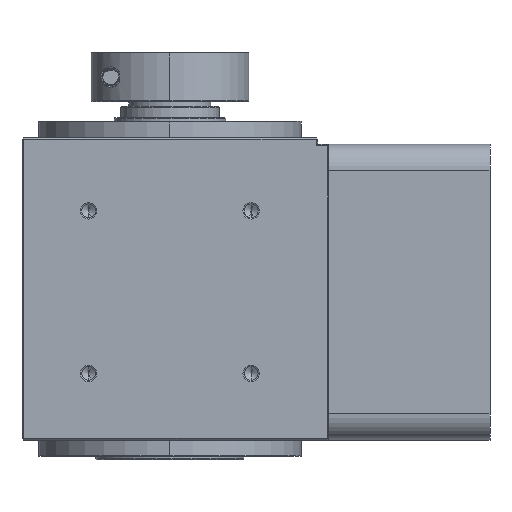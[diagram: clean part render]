
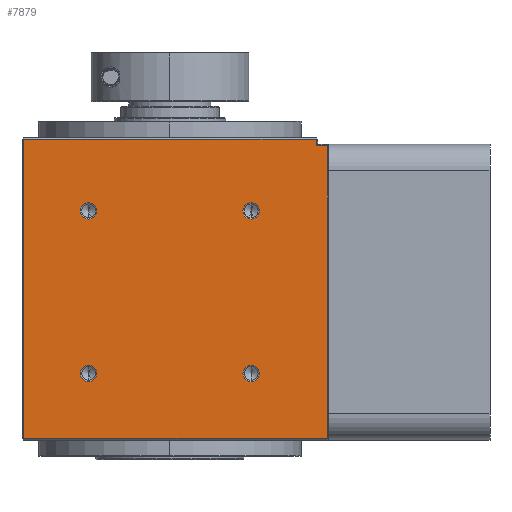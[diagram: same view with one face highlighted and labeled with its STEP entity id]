
A CAD part, left-side view. The second image highlights one B-rep face of the part: STEP entity #7879.
In plain terms, the highlighted planar face has unit normal (-1, 0, 0) as drawn and (1, 0, 0) by its records, which use the part's own axes.
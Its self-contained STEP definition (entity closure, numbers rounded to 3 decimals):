
#371 = ORIENTED_EDGE ( 'NONE', *, *, #33086, .T. ) ;
#588 = CIRCLE ( 'NONE', #5230, 2.5 ) ;
#821 = VECTOR ( 'NONE', #15016, 1000. ) ;
#1117 = ORIENTED_EDGE ( 'NONE', *, *, #29565, .F. ) ;
#1132 = CARTESIAN_POINT ( 'NONE',  ( 45., 44.5, 96.5 ) ) ;
#1711 = EDGE_CURVE ( 'NONE', #19508, #4887, #34512, .T. ) ;
#1725 = VECTOR ( 'NONE', #14639, 1000. ) ;
#2147 = EDGE_LOOP ( 'NONE', ( #27961, #19349 ) ) ;
#2289 = VECTOR ( 'NONE', #34239, 1000. ) ;
#2417 = CIRCLE ( 'NONE', #24730, 2.5 ) ;
#2738 = EDGE_CURVE ( 'NONE', #4467, #16586, #5105, .T. ) ;
#3042 = LINE ( 'NONE', #28829, #1725 ) ;
#3567 = CARTESIAN_POINT ( 'NONE',  ( 45., 44.5, 102. ) ) ;
#3647 = LINE ( 'NONE', #5782, #17879 ) ;
#4395 = LINE ( 'NONE', #3567, #821 ) ;
#4467 = VERTEX_POINT ( 'NONE', #36302 ) ;
#4887 = VERTEX_POINT ( 'NONE', #27420 ) ;
#4929 = DIRECTION ( 'NONE',  ( 0., 0., -1. ) ) ;
#5101 = ORIENTED_EDGE ( 'NONE', *, *, #33422, .F. ) ;
#5105 = CIRCLE ( 'NONE', #18996, 2.5 ) ;
#5163 = VERTEX_POINT ( 'NONE', #5373 ) ;
#5209 = EDGE_LOOP ( 'NONE', ( #1117, #23049 ) ) ;
#5230 = AXIS2_PLACEMENT_3D ( 'NONE', #25127, #13665, #4929 ) ;
#5318 = ORIENTED_EDGE ( 'NONE', *, *, #31998, .F. ) ;
#5373 = CARTESIAN_POINT ( 'NONE',  ( 45., -47.93, 7.5 ) ) ;
#5630 = VERTEX_POINT ( 'NONE', #1132 ) ;
#5782 = CARTESIAN_POINT ( 'NONE',  ( 45., 45., 5.5 ) ) ;
#5871 = CARTESIAN_POINT ( 'NONE',  ( 45., 24.749, 79.249 ) ) ;
#6072 = EDGE_CURVE ( 'NONE', #5630, #13372, #20558, .T. ) ;
#6322 = AXIS2_PLACEMENT_3D ( 'NONE', #23310, #14458, #11609 ) ;
#6951 = DIRECTION ( 'NONE',  ( -1., 0., 0. ) ) ;
#7098 = DIRECTION ( 'NONE',  ( 0., 0., -1. ) ) ;
#7121 = DIRECTION ( 'NONE',  ( 1., 0., 0. ) ) ;
#7122 = CARTESIAN_POINT ( 'NONE',  ( 45., 24.749, 29.751 ) ) ;
#7332 = CARTESIAN_POINT ( 'NONE',  ( 45., -45., 102. ) ) ;
#7757 = DIRECTION ( 'NONE',  ( 0., 0., -1. ) ) ;
#7834 = DIRECTION ( 'NONE',  ( 1., 0., 0. ) ) ;
#7879 = ADVANCED_FACE ( 'NONE', ( #26945, #30963, #36675, #16214, #29560 ), #35703, .F. ) ;
#8486 = EDGE_CURVE ( 'NONE', #16080, #5630, #4395, .T. ) ;
#9029 = VECTOR ( 'NONE', #7098, 1000. ) ;
#9755 = ORIENTED_EDGE ( 'NONE', *, *, #16342, .T. ) ;
#10151 = CARTESIAN_POINT ( 'NONE',  ( 45., -47.93, 96.5 ) ) ;
#10774 = VERTEX_POINT ( 'NONE', #22403 ) ;
#11271 = DIRECTION ( 'NONE',  ( 1., 0., 0. ) ) ;
#11609 = DIRECTION ( 'NONE',  ( 0., 0., -1. ) ) ;
#12590 = AXIS2_PLACEMENT_3D ( 'NONE', #33589, #16537, #16401 ) ;
#13372 = VERTEX_POINT ( 'NONE', #10151 ) ;
#13421 = AXIS2_PLACEMENT_3D ( 'NONE', #19567, #7834, #36580 ) ;
#13629 = VERTEX_POINT ( 'NONE', #25230 ) ;
#13665 = DIRECTION ( 'NONE',  ( 1., 0., 0. ) ) ;
#14059 = CIRCLE ( 'NONE', #12590, 2.5 ) ;
#14149 = DIRECTION ( 'NONE',  ( 0., 0., -1. ) ) ;
#14270 = EDGE_CURVE ( 'NONE', #22569, #10774, #2417, .T. ) ;
#14365 = CIRCLE ( 'NONE', #26517, 2.5 ) ;
#14458 = DIRECTION ( 'NONE',  ( 1., 0., 0. ) ) ;
#14639 = DIRECTION ( 'NONE',  ( 0., 0., -1. ) ) ;
#15016 = DIRECTION ( 'NONE',  ( 0., 0., 1. ) ) ;
#15178 = CARTESIAN_POINT ( 'NONE',  ( 45., -44.5, 102. ) ) ;
#15732 = EDGE_CURVE ( 'NONE', #27521, #22777, #31758, .T. ) ;
#16080 = VERTEX_POINT ( 'NONE', #22430 ) ;
#16082 = CIRCLE ( 'NONE', #13421, 2.5 ) ;
#16214 = FACE_BOUND ( 'NONE', #2147, .T. ) ;
#16342 = EDGE_CURVE ( 'NONE', #22777, #16080, #3647, .T. ) ;
#16401 = DIRECTION ( 'NONE',  ( 0., 0., -1. ) ) ;
#16537 = DIRECTION ( 'NONE',  ( 1., 0., 0. ) ) ;
#16586 = VERTEX_POINT ( 'NONE', #5871 ) ;
#16615 = DIRECTION ( 'NONE',  ( 1., 0., 0. ) ) ;
#17380 = ORIENTED_EDGE ( 'NONE', *, *, #15732, .T. ) ;
#17879 = VECTOR ( 'NONE', #26099, 1000. ) ;
#18271 = CIRCLE ( 'NONE', #6322, 2.5 ) ;
#18470 = CARTESIAN_POINT ( 'NONE',  ( 45., -24.749, 76.749 ) ) ;
#18996 = AXIS2_PLACEMENT_3D ( 'NONE', #19370, #16615, #7757 ) ;
#19325 = LINE ( 'NONE', #36931, #27305 ) ;
#19349 = ORIENTED_EDGE ( 'NONE', *, *, #35284, .F. ) ;
#19370 = CARTESIAN_POINT ( 'NONE',  ( 45., 24.749, 76.749 ) ) ;
#19508 = VERTEX_POINT ( 'NONE', #7122 ) ;
#19567 = CARTESIAN_POINT ( 'NONE',  ( 45., 24.749, 76.749 ) ) ;
#19777 = CARTESIAN_POINT ( 'NONE',  ( 45., 24.749, 27.251 ) ) ;
#19889 = ORIENTED_EDGE ( 'NONE', *, *, #8486, .T. ) ;
#20169 = CARTESIAN_POINT ( 'NONE',  ( 45., -44.5, 5.5 ) ) ;
#20558 = LINE ( 'NONE', #28752, #2289 ) ;
#20863 = CARTESIAN_POINT ( 'NONE',  ( 45., -44.5, 7.5 ) ) ;
#22403 = CARTESIAN_POINT ( 'NONE',  ( 45., -24.749, 79.249 ) ) ;
#22430 = CARTESIAN_POINT ( 'NONE',  ( 45., 44.5, 5.5 ) ) ;
#22569 = VERTEX_POINT ( 'NONE', #28145 ) ;
#22704 = ORIENTED_EDGE ( 'NONE', *, *, #36921, .T. ) ;
#22777 = VERTEX_POINT ( 'NONE', #20169 ) ;
#23049 = ORIENTED_EDGE ( 'NONE', *, *, #25516, .F. ) ;
#23310 = CARTESIAN_POINT ( 'NONE',  ( 45., -24.749, 27.251 ) ) ;
#23490 = EDGE_LOOP ( 'NONE', ( #5101, #31748 ) ) ;
#24320 = CARTESIAN_POINT ( 'NONE',  ( 45., -24.749, 24.751 ) ) ;
#24730 = AXIS2_PLACEMENT_3D ( 'NONE', #18470, #7121, #35239 ) ;
#25022 = VERTEX_POINT ( 'NONE', #24320 ) ;
#25127 = CARTESIAN_POINT ( 'NONE',  ( 45., -24.749, 76.749 ) ) ;
#25230 = CARTESIAN_POINT ( 'NONE',  ( 45., -24.749, 29.751 ) ) ;
#25516 = EDGE_CURVE ( 'NONE', #13629, #25022, #18271, .T. ) ;
#25554 = AXIS2_PLACEMENT_3D ( 'NONE', #7332, #6951, #32992 ) ;
#26099 = DIRECTION ( 'NONE',  ( 0., 1., 0. ) ) ;
#26517 = AXIS2_PLACEMENT_3D ( 'NONE', #33324, #11271, #30953 ) ;
#26945 = FACE_OUTER_BOUND ( 'NONE', #35337, .T. ) ;
#27305 = VECTOR ( 'NONE', #31368, 1000. ) ;
#27420 = CARTESIAN_POINT ( 'NONE',  ( 45., 24.749, 24.751 ) ) ;
#27521 = VERTEX_POINT ( 'NONE', #20863 ) ;
#27961 = ORIENTED_EDGE ( 'NONE', *, *, #2738, .F. ) ;
#28145 = CARTESIAN_POINT ( 'NONE',  ( 45., -24.749, 74.249 ) ) ;
#28752 = CARTESIAN_POINT ( 'NONE',  ( 45., -48.43, 96.5 ) ) ;
#28829 = CARTESIAN_POINT ( 'NONE',  ( 45., -47.93, 102. ) ) ;
#29434 = AXIS2_PLACEMENT_3D ( 'NONE', #19777, #31207, #14149 ) ;
#29560 = FACE_BOUND ( 'NONE', #23490, .T. ) ;
#29565 = EDGE_CURVE ( 'NONE', #25022, #13629, #14059, .T. ) ;
#30953 = DIRECTION ( 'NONE',  ( 0., 0., -1. ) ) ;
#30963 = FACE_BOUND ( 'NONE', #5209, .T. ) ;
#31207 = DIRECTION ( 'NONE',  ( 1., 0., 0. ) ) ;
#31368 = DIRECTION ( 'NONE',  ( 0., 1., 0. ) ) ;
#31412 = ORIENTED_EDGE ( 'NONE', *, *, #6072, .T. ) ;
#31748 = ORIENTED_EDGE ( 'NONE', *, *, #1711, .F. ) ;
#31758 = LINE ( 'NONE', #15178, #9029 ) ;
#31763 = ORIENTED_EDGE ( 'NONE', *, *, #14270, .F. ) ;
#31998 = EDGE_CURVE ( 'NONE', #10774, #22569, #588, .T. ) ;
#32992 = DIRECTION ( 'NONE',  ( 0., -1., 0. ) ) ;
#33086 = EDGE_CURVE ( 'NONE', #5163, #27521, #19325, .T. ) ;
#33324 = CARTESIAN_POINT ( 'NONE',  ( 45., 24.749, 27.251 ) ) ;
#33422 = EDGE_CURVE ( 'NONE', #4887, #19508, #14365, .T. ) ;
#33589 = CARTESIAN_POINT ( 'NONE',  ( 45., -24.749, 27.251 ) ) ;
#34239 = DIRECTION ( 'NONE',  ( 0., -1., 0. ) ) ;
#34512 = CIRCLE ( 'NONE', #29434, 2.5 ) ;
#35239 = DIRECTION ( 'NONE',  ( 0., 0., -1. ) ) ;
#35284 = EDGE_CURVE ( 'NONE', #16586, #4467, #16082, .T. ) ;
#35337 = EDGE_LOOP ( 'NONE', ( #371, #17380, #9755, #19889, #31412, #22704 ) ) ;
#35703 = PLANE ( 'NONE',  #25554 ) ;
#36302 = CARTESIAN_POINT ( 'NONE',  ( 45., 24.749, 74.249 ) ) ;
#36386 = EDGE_LOOP ( 'NONE', ( #31763, #5318 ) ) ;
#36580 = DIRECTION ( 'NONE',  ( 0., 0., -1. ) ) ;
#36675 = FACE_BOUND ( 'NONE', #36386, .T. ) ;
#36921 = EDGE_CURVE ( 'NONE', #13372, #5163, #3042, .T. ) ;
#36931 = CARTESIAN_POINT ( 'NONE',  ( 45., -45., 7.5 ) ) ;
